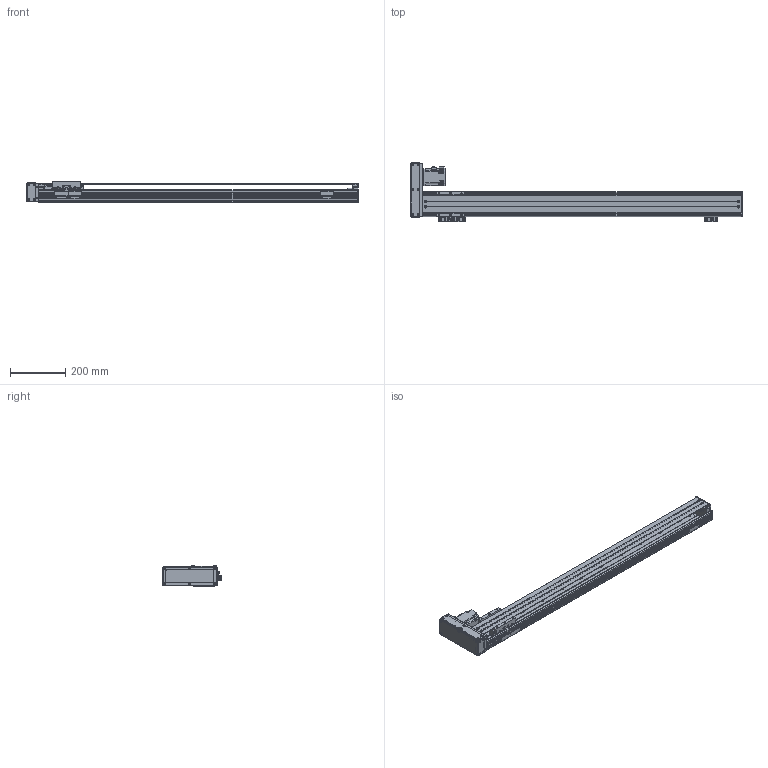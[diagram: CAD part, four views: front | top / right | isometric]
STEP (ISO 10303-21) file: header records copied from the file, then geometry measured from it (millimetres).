
FILE_DESCRIPTION(/* description */ (''),/* implementation_level */ '2;1');
FILE_NAME(/* name */ '\\192.168.0.160\disk1\HAN SHIN Master\B-설계부문\C-표준\B-2024년\BC02-표준도면\+로봇 개선표준도면\홈페이지 표준 도면\홈페이지 최종 작업 폴더\3D\HR\HR90\HG90병렬\좌병렬\HR90-L20-N1B-0950-R10.stp',/* time_stamp */ '2025-01-20T13:15:09+09:00',/* author */ ('user'),/* organization */ (''),/* preprocessor_version */ 'ST-DEVELOPER v18.1',/* originating_system */ 'Autodesk Inventor 2022',/* authorisation */ '');
FILE_SCHEMA (('CONFIG_CONTROL_DESIGN'));
Length unit declared in the file: millimetre
Products named in the file (22): HG90-L20-N1B-0500-R10; HR90 BASE 100W 1BLOCK; HR90 FRONT BLOCK; HR90 REAR BLOCK TENSION; HR90 REAR COVER-TENSION; HG4UPCOV002; HR120 SENSOR DOG; HG90STOPPER - 27L; HG90STOPPER - 20L; HC90-LR-MOTOR PLATE(200W)-사출; MOTOR PLATE-200W(MITSUBISHI); hg-kr23_; 화살표; HR65-LR-BELT COVER; HC90-BELT COVER-COVER3; M-5HL-4; HR90 TABLE; LMKE1520 NUT; SENSOR BRK(EE-SX674A); EE_SX674A; HR75-D-BELT COVER-COVER; HC90-BELT COVER-COVER2
Assembly tree (27 placements, depth 2):
  HG90-L20-N1B-0500-R10
    HR90 BASE 100W 1BLOCK
    HR90 FRONT BLOCK
    HR90 REAR BLOCK TENSION
    HR90 REAR COVER-TENSION
    HG4UPCOV002
    EE_SX674A  x3
    SENSOR BRK(EE-SX674A)  x3
    HR120 SENSOR DOG
    HG90STOPPER - 27L
    HG90STOPPER - 20L
    HC90-LR-MOTOR PLATE(200W)-사출
    MOTOR PLATE-200W(MITSUBISHI)
    hg-kr23_
    화살표  x2
    HC90-BELT COVER-COVER3  x2
    HR65-LR-BELT COVER
    M-5HL-4
    HR90 TABLE
    LMKE1520 NUT
    HR75-D-BELT COVER-COVER
    HC90-BELT COVER-COVER2
Bounding box: 1199 x 215 x 75 mm (x, y, z)
Volume: 2277861.7 mm3; surface area: 959511.2 mm2
Topology: 27 solids, 27 shells, 1430 faces, 3739 edges, 2449 vertices
Faces by surface type: plane 693, cylinder 625, cone 104, sphere 8
Full cylindrical faces by diameter (mm): 1.8 x1, 2 x4, 2.459 x38, 2.5 x2, 3 x8, 3.242 x25, 3.4 x20, 3.5 x6, 4 x4, 4.134 x54, 4.5 x16, 4.917 x5, 5 x29, 5.5 x42, 5.6 x8, 5.8 x4, 5.9 x8, 6 x4, 6.5 x1, 7 x1, 8 x1, 9.5 x38, 14 x1, 15 x3, 17 x1, 20 x1, 22 x1, 25 x1, 28 x1, 32 x2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
Entity records: 40317 total; most frequent: CARTESIAN_POINT 7367, DIRECTION 6894, ORIENTED_EDGE 6364, EDGE_CURVE 3182, AXIS2_PLACEMENT_3D 2502, VERTEX_POINT 2117, LINE 1890, VECTOR 1890
